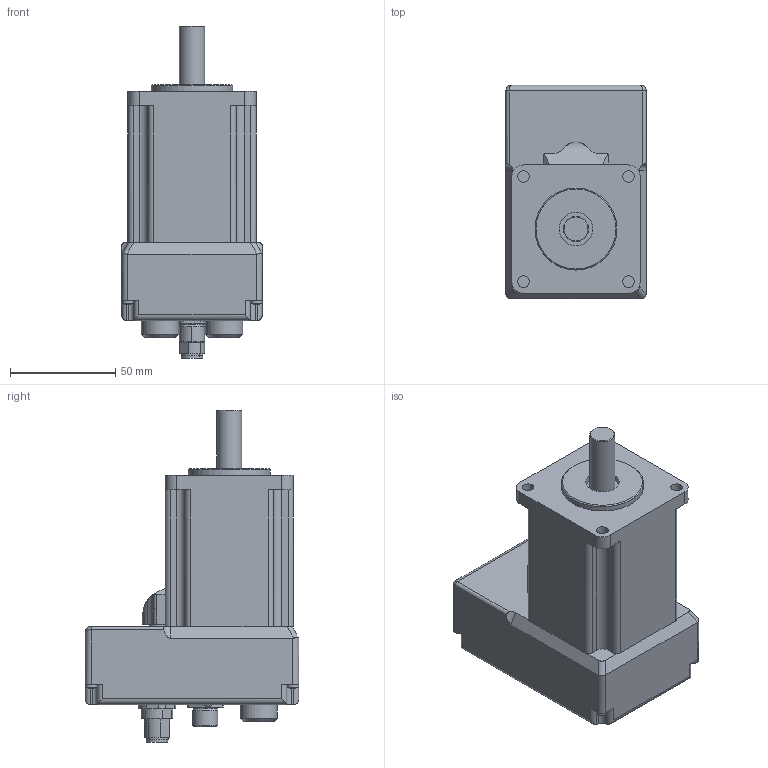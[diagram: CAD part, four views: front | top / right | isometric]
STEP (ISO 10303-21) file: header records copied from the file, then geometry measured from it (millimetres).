
FILE_DESCRIPTION(/* description */ ('Alibre Inc.'),/* implementation_level */ '2;1');
FILE_NAME(/* name */ 'export-FB708B0E-E076-4FBE-8D7D-4B6E3E94BB1F',/* time_stamp */ '2020-03-10T11:21:37-04:00',/* author */ (''),/* organization */ (''),/* preprocessor_version */ 'ST-DEVELOPER v17',/* originating_system */ 'Alibre',/* authorisation */ '');
FILE_SCHEMA (('CONFIG_CONTROL_DESIGN'));
Length unit declared in the file: millimetre
Bounding box: 66.8 x 101.6 x 157.95 mm (x, y, z)
Volume: 499860.3 mm3; surface area: 53824.7 mm2
Topology: 1 solids, 27 shells, 628 faces, 1519 edges, 992 vertices
Faces by surface type: plane 233, cylinder 212, bspline 99, torus 40, cone 28, sphere 10, revolution 6
Full cylindrical faces by diameter (mm): 0.625 x1, 0.8 x4, 1.1 x8, 2.87 x6, 3 x18, 3.264 x4, 5.44 x6, 5.5 x4, 5.588 x2, 7.62 x2, 11.176 x2, 12 x1, 16 x1, 17.78 x2, 19.05 x1, 39 x1
Entity records: 19369 total; most frequent: CARTESIAN_POINT 5958, ORIENTED_EDGE 2754, DIRECTION 2380, EDGE_CURVE 1376, AXIS2_PLACEMENT_3D 1020, VERTEX_POINT 947, EDGE_LOOP 807, FACE_BOUND 807
